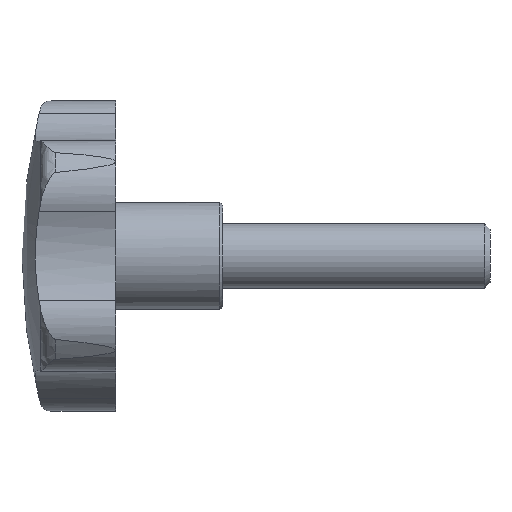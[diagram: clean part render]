
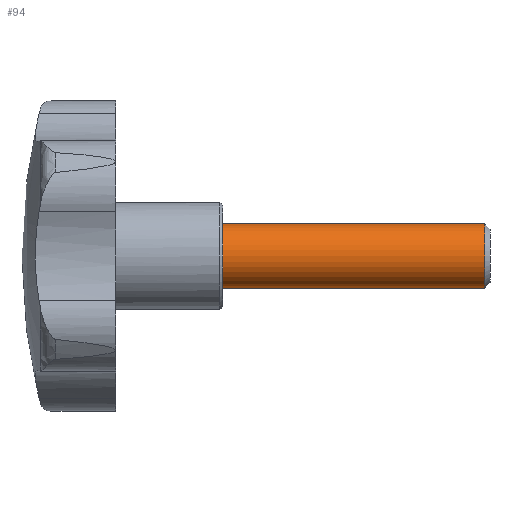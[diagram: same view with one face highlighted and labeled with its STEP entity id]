
A CAD part, left-side view. The second image highlights one B-rep face of the part: STEP entity #94.
In plain terms, the highlighted cylindrical face has radius 6 mm (diameter 12 mm), a full revolution.
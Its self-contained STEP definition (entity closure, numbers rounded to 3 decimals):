
#94 = ADVANCED_FACE( '', ( #177, #178 ), #179, .T. );
#177 = FACE_OUTER_BOUND( '', #303, .T. );
#178 = FACE_OUTER_BOUND( '', #304, .T. );
#179 = CYLINDRICAL_SURFACE( '', #305, 6. );
#303 = EDGE_LOOP( '', ( #539 ) );
#304 = EDGE_LOOP( '', ( #540 ) );
#305 = AXIS2_PLACEMENT_3D( '', #541, #542, #543 );
#539 = ORIENTED_EDGE( '', *, *, #941, .F. );
#540 = ORIENTED_EDGE( '', *, *, #942, .T. );
#541 = CARTESIAN_POINT( '', ( 0., -50., 0. ) );
#542 = DIRECTION( '', ( 0., 1., 0. ) );
#543 = DIRECTION( '', ( 0., 0., -1. ) );
#941 = EDGE_CURVE( '', #1156, #1156, #1157, .T. );
#942 = EDGE_CURVE( '', #1158, #1158, #1159, .T. );
#1156 = VERTEX_POINT( '', #1817 );
#1157 = CIRCLE( '', #1818, 6. );
#1158 = VERTEX_POINT( '', #1819 );
#1159 = CIRCLE( '', #1820, 6. );
#1817 = CARTESIAN_POINT( '', ( 0., -49., -6. ) );
#1818 = AXIS2_PLACEMENT_3D( '', #2351, #2352, #2353 );
#1819 = CARTESIAN_POINT( '', ( 0., 0., -6. ) );
#1820 = AXIS2_PLACEMENT_3D( '', #2354, #2355, #2356 );
#2351 = CARTESIAN_POINT( '', ( 0., -49., 0. ) );
#2352 = DIRECTION( '', ( 0., -1., 0. ) );
#2353 = DIRECTION( '', ( 0., 0., -1. ) );
#2354 = CARTESIAN_POINT( '', ( 0., 0., 0. ) );
#2355 = DIRECTION( '', ( 0., -1., 0. ) );
#2356 = DIRECTION( '', ( 0., 0., -1. ) );
